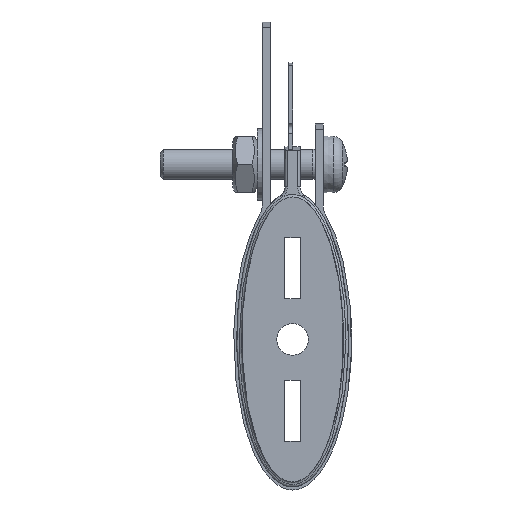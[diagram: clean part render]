
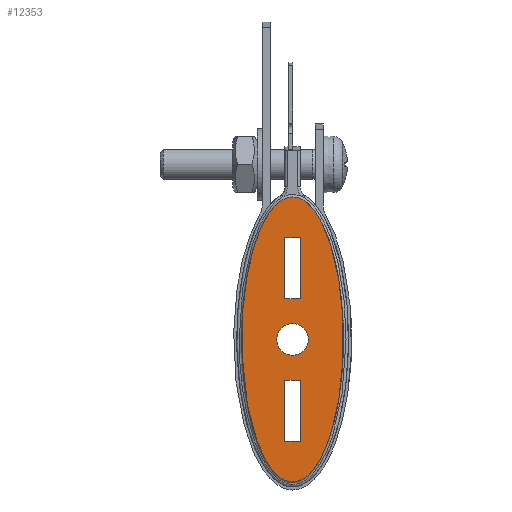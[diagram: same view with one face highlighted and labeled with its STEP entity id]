
A CAD part, front view. The second image highlights one B-rep face of the part: STEP entity #12353.
In plain terms, the highlighted planar face has unit normal (0, -1, 0).
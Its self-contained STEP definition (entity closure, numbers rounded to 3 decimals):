
#159=ELLIPSE($,#12866,14.,5.);
#1527=LINE($,#22774,#2515);
#1529=LINE($,#22779,#2517);
#1530=LINE($,#22781,#2518);
#1531=LINE($,#22783,#2519);
#1532=LINE($,#22784,#2520);
#1533=LINE($,#22786,#2521);
#1534=LINE($,#22788,#2522);
#1535=LINE($,#22789,#2523);
#2515=VECTOR($,#16574,6.);
#2517=VECTOR($,#16578,1.55);
#2518=VECTOR($,#16579,6.);
#2519=VECTOR($,#16580,1.55);
#2520=VECTOR($,#16581,6.);
#2521=VECTOR($,#16582,1.55);
#2522=VECTOR($,#16583,1.55);
#2523=VECTOR($,#16584,6.);
#3346=FACE_OUTER_BOUND($,#4247,.T.);
#3407=FACE_BOUND($,#4248,.T.);
#3408=FACE_BOUND($,#4249,.T.);
#3409=FACE_BOUND($,#4250,.T.);
#4247=EDGE_LOOP($,(#10032));
#4248=EDGE_LOOP($,(#10033));
#4249=EDGE_LOOP($,(#10034,#10035,#10036,#10037));
#4250=EDGE_LOOP($,(#10038,#10039,#10040,#10041));
#4449=CIRCLE($,#13441,1.55);
#5138=VERTEX_POINT($,#19176);
#5408=VERTEX_POINT($,#22765);
#5411=VERTEX_POINT($,#22771);
#5412=VERTEX_POINT($,#22773);
#5413=VERTEX_POINT($,#22777);
#5414=VERTEX_POINT($,#22778);
#5415=VERTEX_POINT($,#22780);
#5416=VERTEX_POINT($,#22782);
#5417=VERTEX_POINT($,#22785);
#5418=VERTEX_POINT($,#22787);
#6333=EDGE_CURVE($,#5138,#5138,#159,.T.);
#6960=EDGE_CURVE($,#5408,#5408,#4449,.T.);
#6963=EDGE_CURVE($,#5412,#5411,#1527,.T.);
#6965=EDGE_CURVE($,#5413,#5414,#1529,.T.);
#6966=EDGE_CURVE($,#5414,#5415,#1530,.T.);
#6967=EDGE_CURVE($,#5415,#5416,#1531,.T.);
#6968=EDGE_CURVE($,#5416,#5413,#1532,.T.);
#6969=EDGE_CURVE($,#5417,#5412,#1533,.T.);
#6970=EDGE_CURVE($,#5411,#5418,#1534,.T.);
#6971=EDGE_CURVE($,#5418,#5417,#1535,.T.);
#10032=ORIENTED_EDGE($,*,*,#6333,.T.);
#10033=ORIENTED_EDGE($,*,*,#6960,.T.);
#10034=ORIENTED_EDGE($,*,*,#6965,.T.);
#10035=ORIENTED_EDGE($,*,*,#6966,.T.);
#10036=ORIENTED_EDGE($,*,*,#6967,.T.);
#10037=ORIENTED_EDGE($,*,*,#6968,.T.);
#10038=ORIENTED_EDGE($,*,*,#6969,.T.);
#10039=ORIENTED_EDGE($,*,*,#6963,.T.);
#10040=ORIENTED_EDGE($,*,*,#6970,.T.);
#10041=ORIENTED_EDGE($,*,*,#6971,.T.);
#10843=PLANE($,#13443);
#12353=ADVANCED_FACE($,(#3346,#3407,#3408,#3409),#10843,.T.);
#12866=AXIS2_PLACEMENT_3D($,#19179,#15082,#15083);
#13441=AXIS2_PLACEMENT_3D($,#22766,#16568,#16569);
#13443=AXIS2_PLACEMENT_3D($,#22776,#16576,#16577);
#15082=DIRECTION('center_axis',(0.,-1.,0.));
#15083=DIRECTION('ref_axis',(0.,0.,
-1.));
#16568=DIRECTION('center_axis',(0.,1.,0.));
#16569=DIRECTION('ref_axis',(1.,0.,0.));
#16574=DIRECTION($,(0.,0.,1.));
#16576=DIRECTION('center_axis',(0.,-1.,0.));
#16577=DIRECTION('ref_axis',(0.,0.,-1.));
#16578=DIRECTION($,(1.,0.,0.));
#16579=DIRECTION($,(0.,0.,-1.));
#16580=DIRECTION($,(-1.,0.,0.));
#16581=DIRECTION($,(0.,0.,1.));
#16582=DIRECTION($,(-1.,0.,0.));
#16583=DIRECTION($,(1.,0.,0.));
#16584=DIRECTION($,(0.,0.,-1.));
#19176=CARTESIAN_POINT('',(0.,0.,
14.));
#19179=CARTESIAN_POINT('Origin',(0.,0.,0.));
#22765=CARTESIAN_POINT('',(-1.55,0.,0.));
#22766=CARTESIAN_POINT('Origin',(0.,0.,0.));
#22771=CARTESIAN_POINT('',(-0.775,0.,10.));
#22773=CARTESIAN_POINT('',(-0.775,0.,4.));
#22774=CARTESIAN_POINT($,(-0.775,0.,5.));
#22776=CARTESIAN_POINT('Origin',(0.,0.,0.));
#22777=CARTESIAN_POINT('',(-0.775,0.,-4.));
#22778=CARTESIAN_POINT('',(0.775,0.,-4.));
#22779=CARTESIAN_POINT($,(0.,0.,-4.));
#22780=CARTESIAN_POINT('',(0.775,0.,-10.));
#22781=CARTESIAN_POINT($,(0.775,0.,-5.));
#22782=CARTESIAN_POINT('',(-0.775,0.,-10.));
#22783=CARTESIAN_POINT($,(-0.388,0.,-10.));
#22784=CARTESIAN_POINT($,(-0.775,0.,-2.));
#22785=CARTESIAN_POINT('',(0.775,0.,4.));
#22786=CARTESIAN_POINT($,(0.,0.,4.));
#22787=CARTESIAN_POINT('',(0.775,0.,10.));
#22788=CARTESIAN_POINT($,(0.388,0.,10.));
#22789=CARTESIAN_POINT($,(0.775,0.,2.));
